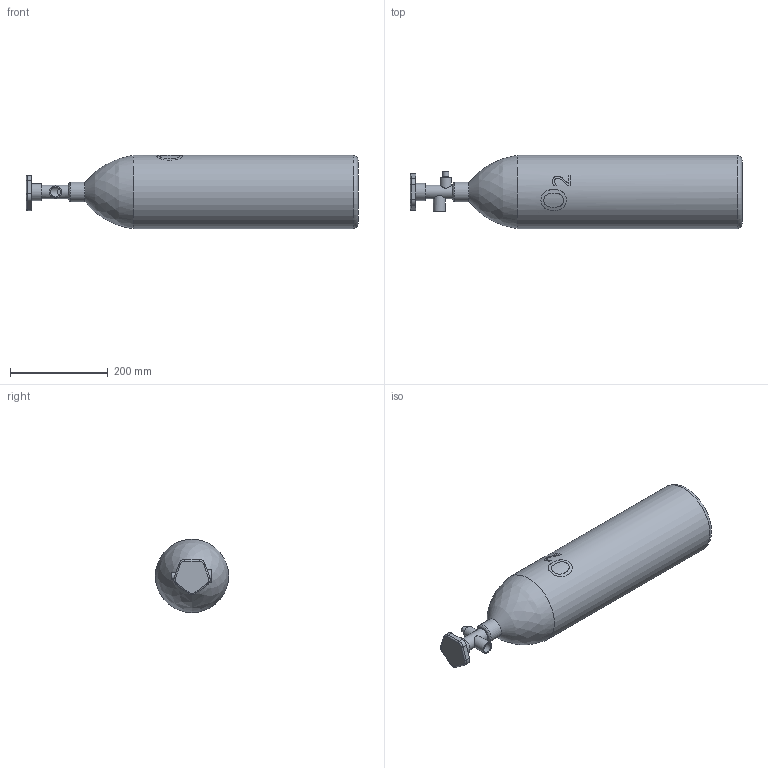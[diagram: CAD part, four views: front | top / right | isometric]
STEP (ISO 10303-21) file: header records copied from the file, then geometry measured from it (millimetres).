
FILE_DESCRIPTION(/* description */ (''),/* implementation_level */ '2;1');
FILE_NAME(/* name */ 'C:\Users\user\Documents\Inventor\Home Ventilator CPAP\Oxygen bottle.stp',/* time_stamp */ '2020-03-30T18:34:20+02:00',/* author */ ('user'),/* organization */ (''),/* preprocessor_version */ 'ST-DEVELOPER v16.5',/* originating_system */ 'Autodesk Inventor 2017',/* authorisation */ '');
FILE_SCHEMA (('AUTOMOTIVE_DESIGN { 1 0 10303 214 3 1 1 }'));
Length unit declared in the file: millimetre
Products named in the file (1): Oxygen bottle
Bounding box: 681 x 150 x 150.1 mm (x, y, z)
Volume: 857524 mm3; surface area: 574180.7 mm2
Topology: 1 solids, 1 shells, 99 faces, 236 edges, 154 vertices
Faces by surface type: cylinder 32, plane 31, bspline 28, torus 8
Full cylindrical faces by diameter (mm): 11 x1, 12.7 x1, 17.292 x1, 20.562 x1, 22 x1, 23.292 x1, 24.824 x1, 28 x1, 29 x1, 34 x1, 35 x1, 40 x1, 144 x1, 150 x1
Entity records: 3795 total; most frequent: CARTESIAN_POINT 1625, ORIENTED_EDGE 422, DIRECTION 370, EDGE_CURVE 211, VERTEX_POINT 147, AXIS2_PLACEMENT_3D 144, EDGE_LOOP 132, FACE_OUTER_BOUND 99
